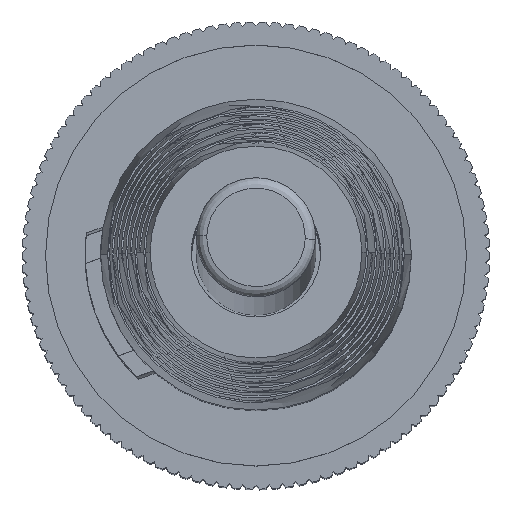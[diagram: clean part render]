
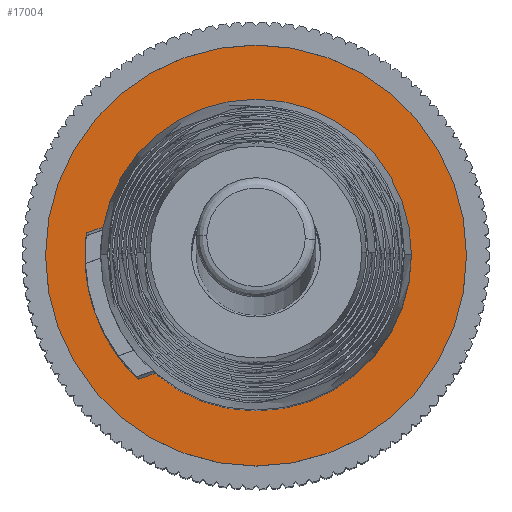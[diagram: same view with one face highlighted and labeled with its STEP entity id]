
A CAD part, top view. The second image highlights one B-rep face of the part: STEP entity #17004.
In plain terms, the highlighted planar face has unit normal (0, 0, 1).
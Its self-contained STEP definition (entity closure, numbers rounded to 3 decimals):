
#98 = EDGE_CURVE ( 'NONE', #11043, #21003, #2968, .T. ) ;
#1226 = EDGE_CURVE ( 'NONE', #10339, #10021, #22906, .T. ) ;
#2968 = CIRCLE ( 'NONE', #23503, 2.121 ) ;
#3820 = CARTESIAN_POINT ( 'NONE',  ( 0., 0., 13.65 ) ) ;
#4964 = DIRECTION ( 'NONE',  ( 0., 0., 1. ) ) ;
#5120 = ORIENTED_EDGE ( 'NONE', *, *, #1226, .T. ) ;
#5474 = AXIS2_PLACEMENT_3D ( 'NONE', #18436, #4964, #20691 ) ;
#5583 = DIRECTION ( 'NONE',  ( 0., 0., 1. ) ) ;
#5747 = CIRCLE ( 'NONE', #14722, 4.064 ) ;
#6109 = DIRECTION ( 'NONE',  ( -1., 0., 0. ) ) ;
#7093 = EDGE_CURVE ( 'NONE', #10021, #10339, #5747, .T. ) ;
#7567 = CARTESIAN_POINT ( 'NONE',  ( 4.064, 0., 13.65 ) ) ;
#7934 = EDGE_LOOP ( 'NONE', ( #10768, #18833 ) ) ;
#9832 = CARTESIAN_POINT ( 'NONE',  ( 0., 0., 13.65 ) ) ;
#9990 = CARTESIAN_POINT ( 'NONE',  ( 0., 0., 13.65 ) ) ;
#10021 = VERTEX_POINT ( 'NONE', #15103 ) ;
#10339 = VERTEX_POINT ( 'NONE', #7567 ) ;
#10768 = ORIENTED_EDGE ( 'NONE', *, *, #16719, .F. ) ;
#11043 = VERTEX_POINT ( 'NONE', #24836 ) ;
#12109 = DIRECTION ( 'NONE',  ( -1., 0., 0. ) ) ;
#12278 = DIRECTION ( 'NONE',  ( -1., 0., 0. ) ) ;
#14465 = FACE_BOUND ( 'NONE', #7934, .T. ) ;
#14722 = AXIS2_PLACEMENT_3D ( 'NONE', #3820, #19573, #6109 ) ;
#15103 = CARTESIAN_POINT ( 'NONE',  ( -4.064, 0., 13.65 ) ) ;
#16719 = EDGE_CURVE ( 'NONE', #21003, #11043, #22219, .T. ) ;
#17004 = ADVANCED_FACE ( 'NONE', ( #26430, #14465 ), #23440, .T. ) ;
#17117 = CARTESIAN_POINT ( 'NONE',  ( -2.121, 0., 13.65 ) ) ;
#18436 = CARTESIAN_POINT ( 'NONE',  ( 0., 0., 13.65 ) ) ;
#18833 = ORIENTED_EDGE ( 'NONE', *, *, #98, .F. ) ;
#19032 = CARTESIAN_POINT ( 'NONE',  ( 0., 0., 13.65 ) ) ;
#19125 = AXIS2_PLACEMENT_3D ( 'NONE', #19032, #5583, #21256 ) ;
#19343 = ORIENTED_EDGE ( 'NONE', *, *, #7093, .T. ) ;
#19573 = DIRECTION ( 'NONE',  ( 0., 0., 1. ) ) ;
#20691 = DIRECTION ( 'NONE',  ( -1., 0., 0. ) ) ;
#21003 = VERTEX_POINT ( 'NONE', #17117 ) ;
#21256 = DIRECTION ( 'NONE',  ( -1., 0., 0. ) ) ;
#22219 = CIRCLE ( 'NONE', #23801, 2.121 ) ;
#22683 = EDGE_LOOP ( 'NONE', ( #19343, #5120 ) ) ;
#22906 = CIRCLE ( 'NONE', #5474, 4.064 ) ;
#23440 = PLANE ( 'NONE',  #19125 ) ;
#23503 = AXIS2_PLACEMENT_3D ( 'NONE', #9832, #25560, #12109 ) ;
#23801 = AXIS2_PLACEMENT_3D ( 'NONE', #9990, #25715, #12278 ) ;
#24836 = CARTESIAN_POINT ( 'NONE',  ( 2.121, 0., 13.65 ) ) ;
#25560 = DIRECTION ( 'NONE',  ( 0., 0., 1. ) ) ;
#25715 = DIRECTION ( 'NONE',  ( 0., 0., 1. ) ) ;
#26430 = FACE_OUTER_BOUND ( 'NONE', #22683, .T. ) ;
